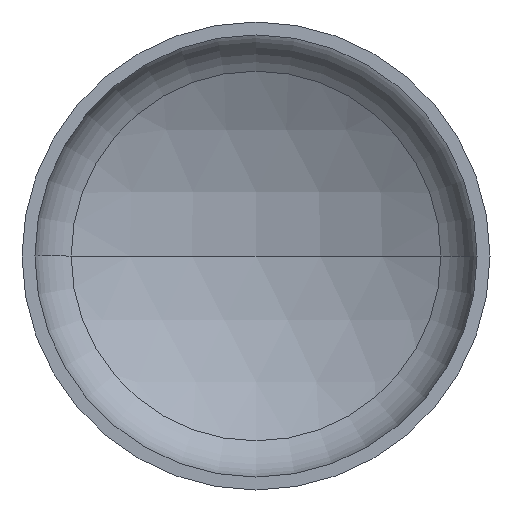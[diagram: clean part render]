
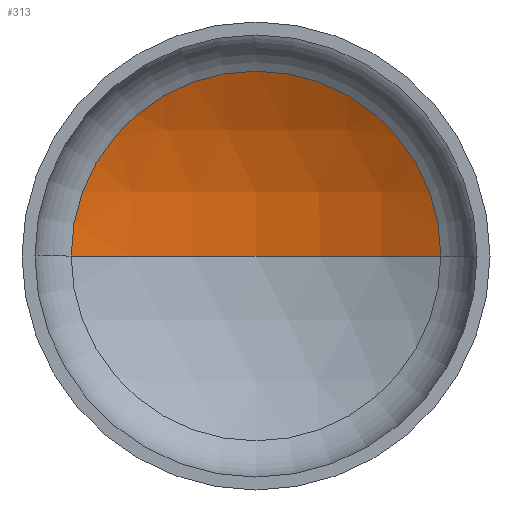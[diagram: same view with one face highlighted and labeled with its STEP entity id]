
A CAD part, front view. The second image highlights one B-rep face of the part: STEP entity #313.
In plain terms, the highlighted spherical face has radius 1360 mm.
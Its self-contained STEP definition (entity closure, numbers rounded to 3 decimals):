
#16 = EDGE_LOOP ( 'NONE', ( #40, #30, #133 ) ) ;
#30 = ORIENTED_EDGE ( 'NONE', *, *, #192, .T. ) ;
#36 = AXIS2_PLACEMENT_3D ( 'NONE', #162, #139, #171 ) ;
#37 = VERTEX_POINT ( 'NONE', #362 ) ;
#40 = ORIENTED_EDGE ( 'NONE', *, *, #200, .F. ) ;
#53 = AXIS2_PLACEMENT_3D ( 'NONE', #240, #187, #185 ) ;
#59 = AXIS2_PLACEMENT_3D ( 'NONE', #263, #279, #277 ) ;
#62 = AXIS2_PLACEMENT_3D ( 'NONE', #220, #218, #219 ) ;
#69 = VERTEX_POINT ( 'NONE', #291 ) ;
#87 = VERTEX_POINT ( 'NONE', #228 ) ;
#133 = ORIENTED_EDGE ( 'NONE', *, *, #184, .T. ) ;
#139 = DIRECTION ( 'NONE',  ( 0., 0., -1. ) ) ;
#162 = CARTESIAN_POINT ( 'NONE',  ( 0., -806.635, 0. ) ) ;
#171 = DIRECTION ( 'NONE',  ( -1., 0., 0. ) ) ;
#184 = EDGE_CURVE ( 'NONE', #69, #37, #223, .T. ) ;
#185 = DIRECTION ( 'NONE',  ( 1., 0., 0. ) ) ;
#187 = DIRECTION ( 'NONE',  ( 0., 0., 1. ) ) ;
#192 = EDGE_CURVE ( 'NONE', #87, #69, #396, .T. ) ;
#200 = EDGE_CURVE ( 'NONE', #87, #37, #217, .T. ) ;
#211 = FACE_OUTER_BOUND ( 'NONE', #16, .T. ) ;
#217 = CIRCLE ( 'NONE', #53, 1360. ) ;
#218 = DIRECTION ( 'NONE',  ( 0., -1., 0. ) ) ;
#219 = DIRECTION ( 'NONE',  ( 1., 0., 0. ) ) ;
#220 = CARTESIAN_POINT ( 'NONE',  ( 0., 376.114, 0. ) ) ;
#223 = CIRCLE ( 'NONE', #62, 671.345 ) ;
#228 = CARTESIAN_POINT ( 'NONE',  ( 0., 553.365, 0. ) ) ;
#240 = CARTESIAN_POINT ( 'NONE',  ( 0., -806.635, 0. ) ) ;
#263 = CARTESIAN_POINT ( 'NONE',  ( 0., -806.635, 0. ) ) ;
#265 = SPHERICAL_SURFACE ( 'NONE', #36, 1360. ) ;
#277 = DIRECTION ( 'NONE',  ( -1., 0., 0. ) ) ;
#279 = DIRECTION ( 'NONE',  ( 0., 0., -1. ) ) ;
#291 = CARTESIAN_POINT ( 'NONE',  ( 671.345, 376.114, 0. ) ) ;
#313 = ADVANCED_FACE ( 'NONE', ( #211 ), #265, .F. ) ;
#362 = CARTESIAN_POINT ( 'NONE',  ( -671.345, 376.114, 0. ) ) ;
#396 = CIRCLE ( 'NONE', #59, 1360. ) ;
